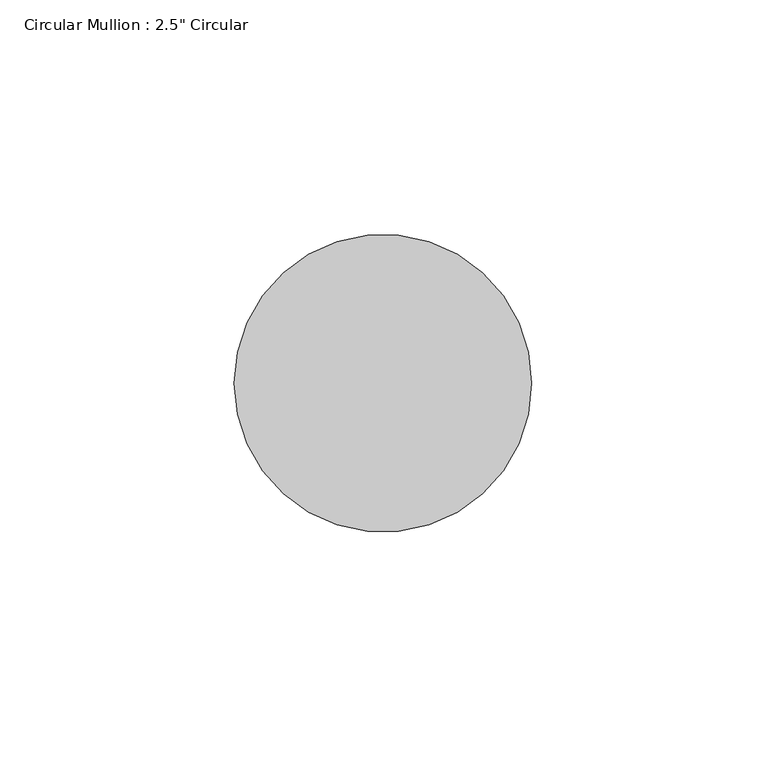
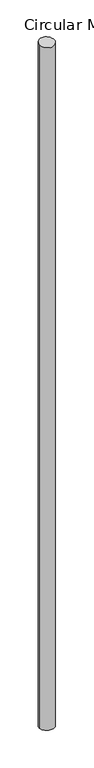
"""IFC4 building model written with IfcOpenShell, lengths in millimetres: member geometry."""

from ifc_helpers import new_model, si_unit, frame, origin, origin_with_axes, place, context, project, spatial, ellipse_curve, source, transform, mapped, element, save
from ifc_brep_helpers import plane_surface, cylinder_surface, advanced_brep


def member_21f347eb(model_context):
    return source(origin(), model_context, "Body", "AdvancedBrep", [
        advanced_brep(
        [(-31.75, 0.0, 0.013401), (31.75, 0.0, -0.013401), (31.75, 0.0, -3050.867377), (-31.75, 0.0, -3050.9146348)],
        [
            (0, 1, ellipse_curve(frame((0.0, 0.0, 0.0), z_axis=(-0.0004201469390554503, 0.09553102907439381, -0.9954263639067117), x_axis=(-0.00437785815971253, 0.995416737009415, 0.09553195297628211)), 31.8958801, 31.75)),
            (1, 2),
            (2, 3, ellipse_curve(frame((0.0, 0.0, -3050.8910059), z_axis=(-0.0007417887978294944, 0.08072029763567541, 0.9967365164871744), x_axis=(0.009159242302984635, -0.9966944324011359, 0.08072370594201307)), 31.8539549, 31.75)),
            (3, 0),
            (1, 0, ellipse_curve(frame((0.0, 0.0, 0.0), z_axis=(-0.0004201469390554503, 0.09553102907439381, -0.9954263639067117), x_axis=(-0.00437785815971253, 0.995416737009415, 0.09553195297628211)), 31.8958801, 31.75)),
            (3, 2, ellipse_curve(frame((0.0, 0.0, -3050.8910059), z_axis=(-0.0007417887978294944, 0.08072029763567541, 0.9967365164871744), x_axis=(0.009159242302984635, -0.9966944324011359, 0.08072370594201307)), 31.8539549, 31.75)),
        ],
        [
            cylinder_surface(origin_with_axes(), 31.75),
            plane_surface(frame((304.7970522, 1.3405021, 0.0), z_axis=(0.0004201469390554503, -0.09553102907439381, 0.9954263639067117), x_axis=(0.0043778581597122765, -0.9954167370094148, -0.09553195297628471))),
            plane_surface(frame((304.7871308, 2.8008777, -3050.8910059), z_axis=(0.0007417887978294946, -0.08072029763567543, -0.9967365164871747), x_axis=(0.009159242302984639, -0.996694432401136, 0.08072370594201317))),
        ],
        [
            (0, [[1, 2, 3, 4]]),
            (0, [[5, -4, 6, -2]]),
            (1, [[-1, -5]]),
            (2, [[-6, -3]]),
        ],
    ),
    ])


if __name__ == "__main__":
    model = new_model("IFC4")
    model_context = context("Model", 3, world=origin())
    ifc_project = project(units=[si_unit("LENGTHUNIT", "METRE", prefix="MILLI")], contexts=[model_context])
    site = spatial("IfcSite", under=ifc_project)
    building = spatial("IfcBuilding", under=site)
    placement = place(None, origin())
    member_shape = member_21f347eb(model_context)
    element("IfcMember", 1, ObjectType="Circular Mullion : 2.5\" Circular", at=placement, inside=building, context=model_context, shape_type="MappedRepresentation", body=[
        mapped(member_shape, transform((0.0, 0.0, 0.0), x_axis=(1.0, 0.0, 0.0), y_axis=(0.0, 1.0, 0.0), z_axis=(0.0, 0.0, 1.0))),
    ])
    save(model, "model.ifc")
